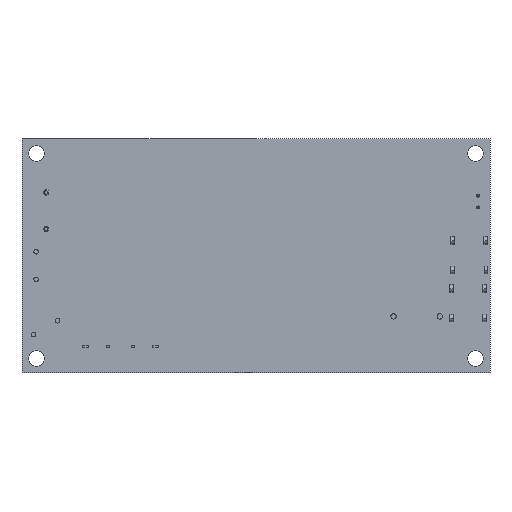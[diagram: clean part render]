
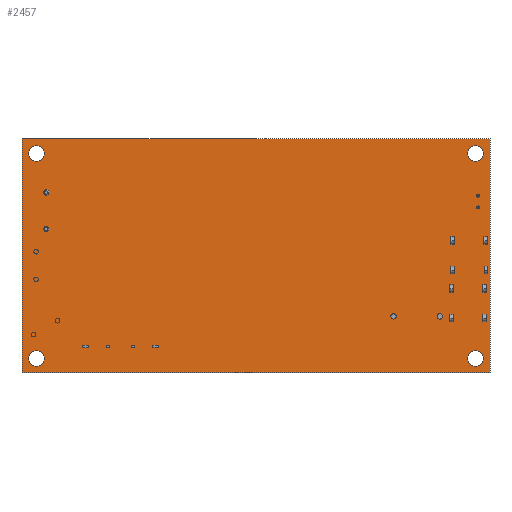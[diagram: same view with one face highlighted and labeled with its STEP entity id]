
A CAD part, front view. The second image highlights one B-rep face of the part: STEP entity #2457.
In plain terms, the highlighted planar face has unit normal (0, -1, 0).
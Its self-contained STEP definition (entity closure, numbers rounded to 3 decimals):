
#2373 = VERTEX_POINT ( 'NONE', #10822 ) ;
#2383 = VERTEX_POINT ( 'NONE', #10857 ) ;
#2392 = EDGE_CURVE ( 'NONE', #2383, #2440, #10844, .T. ) ;
#2397 = VERTEX_POINT ( 'NONE', #10897 ) ;
#2405 = EDGE_CURVE ( 'NONE', #2373, #2397, #9850, .T. ) ;
#2438 = VERTEX_POINT ( 'NONE', #10971 ) ;
#2440 = VERTEX_POINT ( 'NONE', #10959 ) ;
#2448 = VERTEX_POINT ( 'NONE', #10956 ) ;
#2449 = VERTEX_POINT ( 'NONE', #11005 ) ;
#2451 = EDGE_CURVE ( 'NONE', #2448, #2449, #11004, .T. ) ;
#2452 = VERTEX_POINT ( 'NONE', #10950 ) ;
#2455 = EDGE_CURVE ( 'NONE', #2397, #2373, #10992, .T. ) ;
#2457 = ADVANCED_FACE ( 'NONE', ( #10961, #10985, #10993, #10997, #10987 ), #10974, .F. ) ;
#2468 = VERTEX_POINT ( 'NONE', #11037 ) ;
#2471 = EDGE_CURVE ( 'NONE', #2438, #2468, #11025, .T. ) ;
#2486 = VERTEX_POINT ( 'NONE', #11050 ) ;
#2489 = EDGE_LOOP ( 'NONE', ( #2498, #2641 ) ) ;
#2494 = VERTEX_POINT ( 'NONE', #11088 ) ;
#2498 = ORIENTED_EDGE ( 'NONE', *, *, #2455, .T. ) ;
#2504 = VERTEX_POINT ( 'NONE', #11053 ) ;
#2513 = EDGE_CURVE ( 'NONE', #2504, #2452, #11077, .T. ) ;
#2532 = ORIENTED_EDGE ( 'NONE', *, *, #2451, .F. ) ;
#2534 = EDGE_CURVE ( 'NONE', #2452, #2504, #11165, .T. ) ;
#2536 = EDGE_LOOP ( 'NONE', ( #2532, #2631, #2599, #2628 ) ) ;
#2537 = EDGE_CURVE ( 'NONE', #2468, #2438, #11095, .T. ) ;
#2538 = ORIENTED_EDGE ( 'NONE', *, *, #2471, .T. ) ;
#2554 = EDGE_CURVE ( 'NONE', #2486, #2494, #11157, .T. ) ;
#2555 = EDGE_CURVE ( 'NONE', #2494, #2448, #11196, .T. ) ;
#2563 = EDGE_CURVE ( 'NONE', #2440, #2383, #11174, .T. ) ;
#2564 = ORIENTED_EDGE ( 'NONE', *, *, #2537, .T. ) ;
#2570 = ORIENTED_EDGE ( 'NONE', *, *, #2534, .T. ) ;
#2598 = ORIENTED_EDGE ( 'NONE', *, *, #2513, .T. ) ;
#2599 = ORIENTED_EDGE ( 'NONE', *, *, #2554, .F. ) ;
#2613 = ORIENTED_EDGE ( 'NONE', *, *, #2563, .T. ) ;
#2625 = EDGE_LOOP ( 'NONE', ( #2613, #2639 ) ) ;
#2628 = ORIENTED_EDGE ( 'NONE', *, *, #11200, .F. ) ;
#2631 = ORIENTED_EDGE ( 'NONE', *, *, #2555, .F. ) ;
#2639 = ORIENTED_EDGE ( 'NONE', *, *, #2392, .T. ) ;
#2640 = EDGE_LOOP ( 'NONE', ( #2564, #2538 ) ) ;
#2641 = ORIENTED_EDGE ( 'NONE', *, *, #2405, .T. ) ;
#2643 = EDGE_LOOP ( 'NONE', ( #2570, #2598 ) ) ;
#8925 = AXIS2_PLACEMENT_3D ( 'NONE', #10093, #10088, #10091 ) ;
#9850 = CIRCLE ( 'NONE', #8925, 1.7 ) ;
#10088 = DIRECTION ( 'NONE',  ( 0., 1., 0. ) ) ;
#10090 = VECTOR ( 'NONE', #10347, 1000. ) ;
#10091 = DIRECTION ( 'NONE',  ( 0., 0., 1. ) ) ;
#10093 = CARTESIAN_POINT ( 'NONE',  ( 98.425, 0., 3.175 ) ) ;
#10347 = DIRECTION ( 'NONE',  ( 0., 0., -1. ) ) ;
#10822 = CARTESIAN_POINT ( 'NONE',  ( 98.425, 0., 1.475 ) ) ;
#10844 = CIRCLE ( 'NONE', #10904, 1.7 ) ;
#10857 = CARTESIAN_POINT ( 'NONE',  ( 98.425, 0., 45.925 ) ) ;
#10897 = CARTESIAN_POINT ( 'NONE',  ( 98.425, 0., 4.875 ) ) ;
#10901 = DIRECTION ( 'NONE',  ( 0., 0., 1. ) ) ;
#10902 = DIRECTION ( 'NONE',  ( 0., 1., 0. ) ) ;
#10903 = CARTESIAN_POINT ( 'NONE',  ( 98.425, 0., 47.625 ) ) ;
#10904 = AXIS2_PLACEMENT_3D ( 'NONE', #10903, #10902, #10901 ) ;
#10950 = CARTESIAN_POINT ( 'NONE',  ( 3.175, 0., 4.875 ) ) ;
#10956 = CARTESIAN_POINT ( 'NONE',  ( 0., 0., 0. ) ) ;
#10959 = CARTESIAN_POINT ( 'NONE',  ( 98.425, 0., 49.325 ) ) ;
#10961 = FACE_BOUND ( 'NONE', #2489, .T. ) ;
#10971 = CARTESIAN_POINT ( 'NONE',  ( 3.175, 0., 45.925 ) ) ;
#10974 = PLANE ( 'NONE',  #10988 ) ;
#10980 = DIRECTION ( 'NONE',  ( 0., 0., 1. ) ) ;
#10981 = DIRECTION ( 'NONE',  ( 0., 1., 0. ) ) ;
#10982 = CARTESIAN_POINT ( 'NONE',  ( 98.425, 0., 3.175 ) ) ;
#10985 = FACE_BOUND ( 'NONE', #2625, .T. ) ;
#10987 = FACE_OUTER_BOUND ( 'NONE', #2536, .T. ) ;
#10988 = AXIS2_PLACEMENT_3D ( 'NONE', #10996, #11041, #11040 ) ;
#10992 = CIRCLE ( 'NONE', #10998, 1.7 ) ;
#10993 = FACE_BOUND ( 'NONE', #2640, .T. ) ;
#10994 = DIRECTION ( 'NONE',  ( 0., 0., 1. ) ) ;
#10995 = VECTOR ( 'NONE', #10994, 1000. ) ;
#10996 = CARTESIAN_POINT ( 'NONE',  ( 0., 0., 50.8 ) ) ;
#10997 = FACE_BOUND ( 'NONE', #2643, .T. ) ;
#10998 = AXIS2_PLACEMENT_3D ( 'NONE', #10982, #10981, #10980 ) ;
#11003 = CARTESIAN_POINT ( 'NONE',  ( 0., 0., 0. ) ) ;
#11004 = LINE ( 'NONE', #11003, #10995 ) ;
#11005 = CARTESIAN_POINT ( 'NONE',  ( 0., 0., 50.8 ) ) ;
#11011 = DIRECTION ( 'NONE',  ( 0., 0., 1. ) ) ;
#11012 = DIRECTION ( 'NONE',  ( 0., 1., 0. ) ) ;
#11013 = AXIS2_PLACEMENT_3D ( 'NONE', #11028, #11012, #11011 ) ;
#11025 = CIRCLE ( 'NONE', #11013, 1.7 ) ;
#11028 = CARTESIAN_POINT ( 'NONE',  ( 3.175, 0., 47.625 ) ) ;
#11037 = CARTESIAN_POINT ( 'NONE',  ( 3.175, 0., 49.325 ) ) ;
#11040 = DIRECTION ( 'NONE',  ( 0., 0., 1. ) ) ;
#11041 = DIRECTION ( 'NONE',  ( 0., 1., 0. ) ) ;
#11050 = CARTESIAN_POINT ( 'NONE',  ( 101.6, 0., 50.8 ) ) ;
#11053 = CARTESIAN_POINT ( 'NONE',  ( 3.175, 0., 1.475 ) ) ;
#11077 = CIRCLE ( 'NONE', #11087, 1.7 ) ;
#11087 = AXIS2_PLACEMENT_3D ( 'NONE', #11094, #11134, #11133 ) ;
#11088 = CARTESIAN_POINT ( 'NONE',  ( 101.6, 0., 0. ) ) ;
#11094 = CARTESIAN_POINT ( 'NONE',  ( 3.175, 0., 3.175 ) ) ;
#11095 = CIRCLE ( 'NONE', #11162, 1.7 ) ;
#11107 = AXIS2_PLACEMENT_3D ( 'NONE', #11154, #11153, #11152 ) ;
#11133 = DIRECTION ( 'NONE',  ( 0., 0., 1. ) ) ;
#11134 = DIRECTION ( 'NONE',  ( 0., 1., 0. ) ) ;
#11147 = DIRECTION ( 'NONE',  ( 0., 0., 1. ) ) ;
#11148 = DIRECTION ( 'NONE',  ( 0., 1., 0. ) ) ;
#11149 = CARTESIAN_POINT ( 'NONE',  ( 3.175, 0., 47.625 ) ) ;
#11152 = DIRECTION ( 'NONE',  ( 0., 0., 1. ) ) ;
#11153 = DIRECTION ( 'NONE',  ( 0., 1., 0. ) ) ;
#11154 = CARTESIAN_POINT ( 'NONE',  ( 3.175, 0., 3.175 ) ) ;
#11156 = CARTESIAN_POINT ( 'NONE',  ( 101.6, 0., 0. ) ) ;
#11157 = LINE ( 'NONE', #11156, #10090 ) ;
#11162 = AXIS2_PLACEMENT_3D ( 'NONE', #11149, #11148, #11147 ) ;
#11165 = CIRCLE ( 'NONE', #11107, 1.7 ) ;
#11166 = DIRECTION ( 'NONE',  ( 0., 1., 0. ) ) ;
#11167 = CARTESIAN_POINT ( 'NONE',  ( 98.425, 0., 47.625 ) ) ;
#11168 = AXIS2_PLACEMENT_3D ( 'NONE', #11167, #11166, #11223 ) ;
#11174 = CIRCLE ( 'NONE', #11168, 1.7 ) ;
#11193 = DIRECTION ( 'NONE',  ( -1., 0., 0. ) ) ;
#11194 = VECTOR ( 'NONE', #11193, 1000. ) ;
#11195 = CARTESIAN_POINT ( 'NONE',  ( 0., 0., 0. ) ) ;
#11196 = LINE ( 'NONE', #11195, #11194 ) ;
#11200 = EDGE_CURVE ( 'NONE', #2449, #2486, #16482, .T. ) ;
#11223 = DIRECTION ( 'NONE',  ( 0., 0., 1. ) ) ;
#16482 = LINE ( 'NONE', #16486, #16485 ) ;
#16485 = VECTOR ( 'NONE', #16535, 1000. ) ;
#16486 = CARTESIAN_POINT ( 'NONE',  ( 0., 0., 50.8 ) ) ;
#16535 = DIRECTION ( 'NONE',  ( 1., 0., 0. ) ) ;
